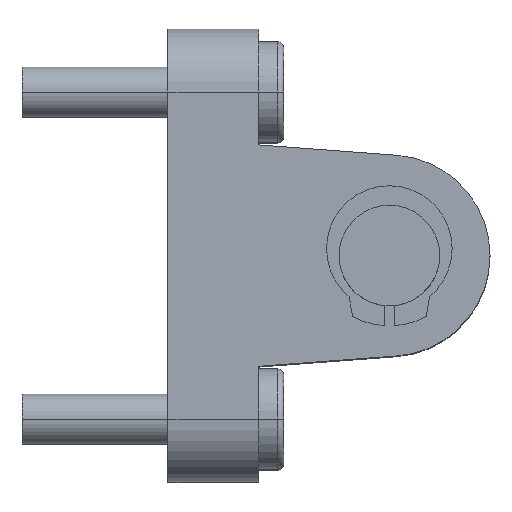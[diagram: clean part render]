
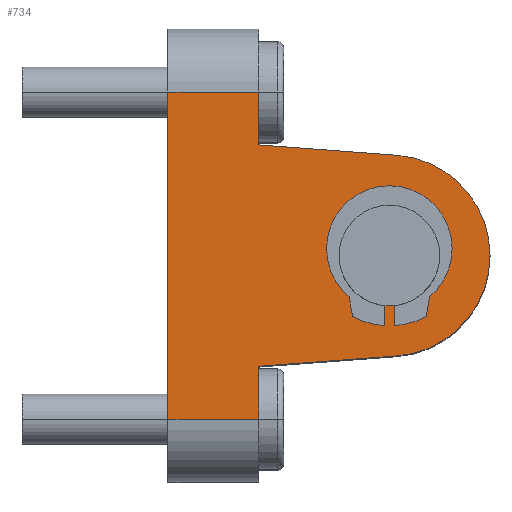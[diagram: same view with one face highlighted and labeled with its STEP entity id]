
A CAD part, top view. The second image highlights one B-rep face of the part: STEP entity #734.
In plain terms, the highlighted planar face has unit normal (0, 0, 1).
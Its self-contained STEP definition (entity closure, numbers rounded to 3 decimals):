
#21 = VECTOR ( 'NONE', #3363, 1000. ) ;
#89 = CARTESIAN_POINT ( 'NONE',  ( 9., -16.25, 22.5 ) ) ;
#301 = VERTEX_POINT ( 'NONE', #1234 ) ;
#311 = ORIENTED_EDGE ( 'NONE', *, *, #2718, .F. ) ;
#313 = DIRECTION ( 'NONE',  ( 1., 0., 0. ) ) ;
#322 = DIRECTION ( 'NONE',  ( 1., 0., 0. ) ) ;
#365 = ORIENTED_EDGE ( 'NONE', *, *, #4792, .F. ) ;
#375 = CARTESIAN_POINT ( 'NONE',  ( 9., 11., 22.5 ) ) ;
#417 = DIRECTION ( 'NONE',  ( -1., 0., 0. ) ) ;
#467 = PLANE ( 'NONE',  #1569 ) ;
#511 = CARTESIAN_POINT ( 'NONE',  ( 9., 16.25, 22.5 ) ) ;
#621 = ORIENTED_EDGE ( 'NONE', *, *, #872, .F. ) ;
#650 = EDGE_CURVE ( 'NONE', #3409, #2843, #1077, .T. ) ;
#669 = ORIENTED_EDGE ( 'NONE', *, *, #1331, .F. ) ;
#682 = CIRCLE ( 'NONE', #2837, 5. ) ;
#693 = DIRECTION ( 'NONE',  ( 1., 0., 0. ) ) ;
#700 = CARTESIAN_POINT ( 'NONE',  ( 9., 16.25, 22.5 ) ) ;
#707 = VERTEX_POINT ( 'NONE', #89 ) ;
#734 = ADVANCED_FACE ( 'NONE', ( #3838, #2346 ), #467, .F. ) ;
#748 = DIRECTION ( 'NONE',  ( 0., -1., 0. ) ) ;
#836 = DIRECTION ( 'NONE',  ( -0.997, -0.075, 0. ) ) ;
#872 = EDGE_CURVE ( 'NONE', #707, #4108, #1732, .T. ) ;
#890 = CARTESIAN_POINT ( 'NONE',  ( 9., -16.25, 22.5 ) ) ;
#998 = EDGE_CURVE ( 'NONE', #2707, #3409, #3339, .T. ) ;
#1064 = CARTESIAN_POINT ( 'NONE',  ( 9., 16.25, 22.5 ) ) ;
#1077 = LINE ( 'NONE', #700, #1481 ) ;
#1161 = VECTOR ( 'NONE', #693, 1000. ) ;
#1234 = CARTESIAN_POINT ( 'NONE',  ( 9., -11., 22.5 ) ) ;
#1242 = CIRCLE ( 'NONE', #3639, 10. ) ;
#1331 = EDGE_CURVE ( 'NONE', #301, #707, #3924, .T. ) ;
#1371 = CARTESIAN_POINT ( 'NONE',  ( 27., 0., 22.5 ) ) ;
#1382 = VERTEX_POINT ( 'NONE', #3817 ) ;
#1411 = ORIENTED_EDGE ( 'NONE', *, *, #4750, .F. ) ;
#1424 = DIRECTION ( 'NONE',  ( 0., 0., -1. ) ) ;
#1481 = VECTOR ( 'NONE', #748, 1000. ) ;
#1484 = EDGE_LOOP ( 'NONE', ( #365, #311 ) ) ;
#1502 = CARTESIAN_POINT ( 'NONE',  ( 22., 0., 22.5 ) ) ;
#1536 = LINE ( 'NONE', #1604, #2936 ) ;
#1569 = AXIS2_PLACEMENT_3D ( 'NONE', #3421, #4597, #417 ) ;
#1604 = CARTESIAN_POINT ( 'NONE',  ( 22.746, -9.972, 22.5 ) ) ;
#1608 = EDGE_CURVE ( 'NONE', #2707, #4108, #4654, .T. ) ;
#1732 = LINE ( 'NONE', #890, #2192 ) ;
#1793 = VERTEX_POINT ( 'NONE', #4929 ) ;
#1832 = LINE ( 'NONE', #3290, #21 ) ;
#1855 = CARTESIAN_POINT ( 'NONE',  ( 22., 0., 22.5 ) ) ;
#1859 = VERTEX_POINT ( 'NONE', #4478 ) ;
#1882 = CARTESIAN_POINT ( 'NONE',  ( 0., 16.25, 22.5 ) ) ;
#2050 = DIRECTION ( 'NONE',  ( -1., 0., 0. ) ) ;
#2078 = ORIENTED_EDGE ( 'NONE', *, *, #650, .F. ) ;
#2192 = VECTOR ( 'NONE', #2050, 1000. ) ;
#2268 = CARTESIAN_POINT ( 'NONE',  ( 17., 0., 22.5 ) ) ;
#2343 = DIRECTION ( 'NONE',  ( 0., 0., 1. ) ) ;
#2346 = FACE_OUTER_BOUND ( 'NONE', #3106, .T. ) ;
#2390 = ORIENTED_EDGE ( 'NONE', *, *, #2723, .F. ) ;
#2458 = ORIENTED_EDGE ( 'NONE', *, *, #3355, .F. ) ;
#2583 = DIRECTION ( 'NONE',  ( 0., 0., 1. ) ) ;
#2599 = DIRECTION ( 'NONE',  ( 0., 0., -1. ) ) ;
#2617 = ORIENTED_EDGE ( 'NONE', *, *, #998, .F. ) ;
#2637 = DIRECTION ( 'NONE',  ( 1., 0., 0. ) ) ;
#2707 = VERTEX_POINT ( 'NONE', #3701 ) ;
#2718 = EDGE_CURVE ( 'NONE', #3195, #4663, #4047, .T. ) ;
#2723 = EDGE_CURVE ( 'NONE', #1793, #301, #1536, .T. ) ;
#2819 = CIRCLE ( 'NONE', #3291, 10. ) ;
#2837 = AXIS2_PLACEMENT_3D ( 'NONE', #1502, #2583, #2637 ) ;
#2843 = VERTEX_POINT ( 'NONE', #375 ) ;
#2936 = VECTOR ( 'NONE', #836, 1000. ) ;
#2998 = VECTOR ( 'NONE', #3025, 1000. ) ;
#3025 = DIRECTION ( 'NONE',  ( 0., -1., 0. ) ) ;
#3092 = DIRECTION ( 'NONE',  ( 1., 0., 0. ) ) ;
#3101 = CARTESIAN_POINT ( 'NONE',  ( 22., 0., 22.5 ) ) ;
#3106 = EDGE_LOOP ( 'NONE', ( #621, #669, #2390, #1411, #4058, #2458, #2078, #2617, #3962 ) ) ;
#3195 = VERTEX_POINT ( 'NONE', #2268 ) ;
#3290 = CARTESIAN_POINT ( 'NONE',  ( 9., 11., 22.5 ) ) ;
#3291 = AXIS2_PLACEMENT_3D ( 'NONE', #1855, #2599, #322 ) ;
#3305 = EDGE_CURVE ( 'NONE', #1859, #1382, #2819, .T. ) ;
#3339 = LINE ( 'NONE', #1064, #1161 ) ;
#3355 = EDGE_CURVE ( 'NONE', #2843, #1859, #1832, .T. ) ;
#3363 = DIRECTION ( 'NONE',  ( 0.997, -0.075, 0. ) ) ;
#3409 = VERTEX_POINT ( 'NONE', #3745 ) ;
#3421 = CARTESIAN_POINT ( 'NONE',  ( 9., 16.25, 22.5 ) ) ;
#3537 = CARTESIAN_POINT ( 'NONE',  ( 0., -16.25, 22.5 ) ) ;
#3563 = DIRECTION ( 'NONE',  ( 0., -1., 0. ) ) ;
#3639 = AXIS2_PLACEMENT_3D ( 'NONE', #3101, #1424, #313 ) ;
#3701 = CARTESIAN_POINT ( 'NONE',  ( 0., 16.25, 22.5 ) ) ;
#3716 = VECTOR ( 'NONE', #3563, 1000. ) ;
#3745 = CARTESIAN_POINT ( 'NONE',  ( 9., 16.25, 22.5 ) ) ;
#3817 = CARTESIAN_POINT ( 'NONE',  ( 32., 0., 22.5 ) ) ;
#3838 = FACE_BOUND ( 'NONE', #1484, .T. ) ;
#3924 = LINE ( 'NONE', #511, #3716 ) ;
#3962 = ORIENTED_EDGE ( 'NONE', *, *, #1608, .T. ) ;
#4047 = CIRCLE ( 'NONE', #4130, 5. ) ;
#4058 = ORIENTED_EDGE ( 'NONE', *, *, #3305, .F. ) ;
#4108 = VERTEX_POINT ( 'NONE', #3537 ) ;
#4130 = AXIS2_PLACEMENT_3D ( 'NONE', #4200, #2343, #3092 ) ;
#4200 = CARTESIAN_POINT ( 'NONE',  ( 22., 0., 22.5 ) ) ;
#4478 = CARTESIAN_POINT ( 'NONE',  ( 22.746, 9.972, 22.5 ) ) ;
#4597 = DIRECTION ( 'NONE',  ( 0., 0., -1. ) ) ;
#4654 = LINE ( 'NONE', #1882, #2998 ) ;
#4663 = VERTEX_POINT ( 'NONE', #1371 ) ;
#4750 = EDGE_CURVE ( 'NONE', #1382, #1793, #1242, .T. ) ;
#4792 = EDGE_CURVE ( 'NONE', #4663, #3195, #682, .T. ) ;
#4929 = CARTESIAN_POINT ( 'NONE',  ( 22.746, -9.972, 22.5 ) ) ;
